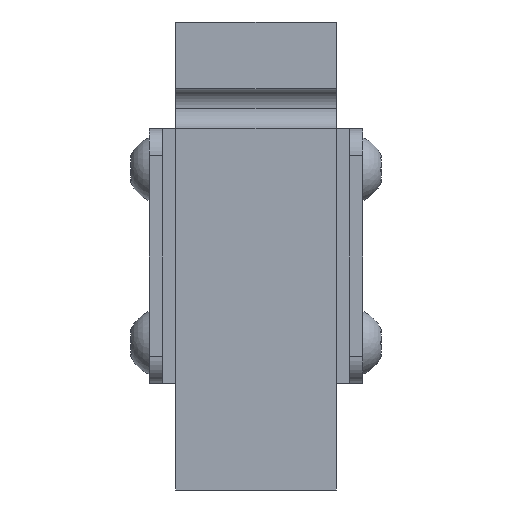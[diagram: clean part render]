
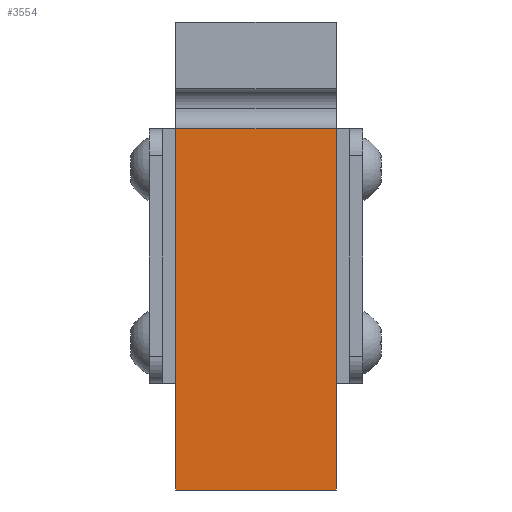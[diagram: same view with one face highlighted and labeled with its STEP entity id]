
A CAD part, left-side view. The second image highlights one B-rep face of the part: STEP entity #3554.
In plain terms, the highlighted planar face has unit normal (-1, 0, 0).
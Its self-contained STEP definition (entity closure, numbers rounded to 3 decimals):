
#234=PLANE('',#3880);
#387=FACE_OUTER_BOUND('',#606,.T.);
#606=EDGE_LOOP('',(#2726,#2727,#2728,#2729));
#799=LINE('',#7008,#1006);
#844=LINE('',#7471,#1051);
#845=LINE('',#7473,#1052);
#846=LINE('',#7474,#1053);
#1006=VECTOR('',#4522,10.);
#1051=VECTOR('',#4597,10.);
#1052=VECTOR('',#4598,10.);
#1053=VECTOR('',#4599,10.);
#1535=VERTEX_POINT('',#7005);
#1536=VERTEX_POINT('',#7007);
#1575=VERTEX_POINT('',#7470);
#1576=VERTEX_POINT('',#7472);
#1960=EDGE_CURVE('',#1536,#1535,#799,.T.);
#2015=EDGE_CURVE('',#1535,#1575,#844,.T.);
#2016=EDGE_CURVE('',#1576,#1575,#845,.T.);
#2017=EDGE_CURVE('',#1536,#1576,#846,.T.);
#2726=ORIENTED_EDGE('',*,*,#1960,.T.);
#2727=ORIENTED_EDGE('',*,*,#2015,.T.);
#2728=ORIENTED_EDGE('',*,*,#2016,.F.);
#2729=ORIENTED_EDGE('',*,*,#2017,.F.);
#3554=ADVANCED_FACE('',(#387),#234,.T.);
#3880=AXIS2_PLACEMENT_3D('',#7469,#4595,#4596);
#4522=DIRECTION('',(0.,0.,1.));
#4595=DIRECTION('center_axis',(-1.,0.,0.));
#4596=DIRECTION('ref_axis',(0.,0.,1.));
#4597=DIRECTION('',(0.,1.,0.));
#4598=DIRECTION('',(0.,0.,1.));
#4599=DIRECTION('',(0.,1.,0.));
#7005=CARTESIAN_POINT('',(0.,0.,27.));
#7007=CARTESIAN_POINT('',(0.,0.,0.));
#7008=CARTESIAN_POINT('',(0.,0.,0.));
#7469=CARTESIAN_POINT('Origin',(0.,0.,0.));
#7470=CARTESIAN_POINT('',(0.,12.,27.));
#7471=CARTESIAN_POINT('',(0.,0.,27.));
#7472=CARTESIAN_POINT('',(0.,12.,0.));
#7473=CARTESIAN_POINT('',(0.,12.,0.));
#7474=CARTESIAN_POINT('',(0.,0.,0.));
